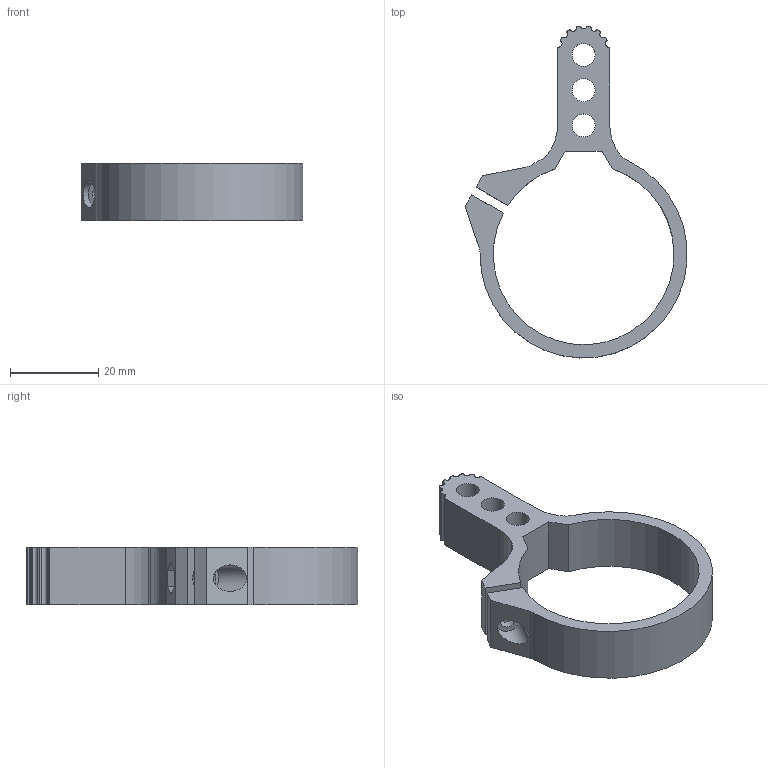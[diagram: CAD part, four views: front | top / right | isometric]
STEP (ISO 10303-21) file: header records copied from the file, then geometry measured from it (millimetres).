
FILE_DESCRIPTION(/* description */ (''),/* implementation_level */ '2;1');
FILE_NAME(/* name */ '/Users/mano/Dropbox/Mano/MV CG Work/MV 3D Projects/Comic/Wonder Woman/MV Assets/Scope Throw Lever v12.step',/* time_stamp */ '2019-04-09T16:44:32-04:00',/* author */ ('mano@mvasilakis.com'),/* organization */ (''),/* preprocessor_version */ 'ST-DEVELOPER v17.2',/* originating_system */ 'Autodesk Translation Framework v7.6.0.251',/* authorisation */ '');
FILE_SCHEMA (('AUTOMOTIVE_DESIGN { 1 0 10303 214 3 1 1 }'));
Length unit declared in the file: millimetre
Products named in the file (1): Scope Throw Lever
Bounding box: 50.35 x 75.29 x 13 mm (x, y, z)
Volume: 8892.7 mm3; surface area: 6834.1 mm2
Topology: 1 solids, 1 shells, 68 faces, 192 edges, 128 vertices
Faces by surface type: cylinder 45, plane 23
Full cylindrical faces by diameter (mm): 3.7 x2, 5.2 x3, 6 x1
Entity records: 2299 total; most frequent: DIRECTION 420, CARTESIAN_POINT 389, ORIENTED_EDGE 384, EDGE_CURVE 192, AXIS2_PLACEMENT_3D 159, VERTEX_POINT 128, LINE 102, VECTOR 102
